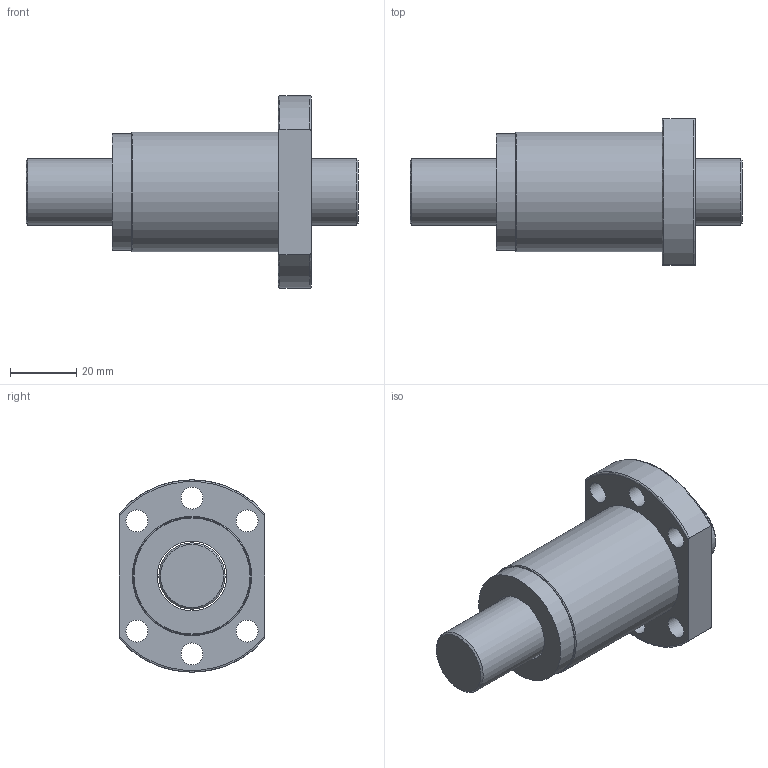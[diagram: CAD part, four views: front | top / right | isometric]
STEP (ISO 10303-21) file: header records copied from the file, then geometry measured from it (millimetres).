
FILE_DESCRIPTION(/* description */ (''),/* implementation_level */ '2;1');
FILE_NAME(/* name */ 'SFS2010',/* time_stamp */ '2007-10-26T10:49:46+08:00',/* author */ (''),/* organization */ (''),/* preprocessor_version */ 'ST-DEVELOPER v9',/* originating_system */ 'UGS - NX 3.0',/* authorisation */ '');
FILE_SCHEMA (('CONFIG_CONTROL_DESIGN'));
Length unit declared in the file: millimetre
Products named in the file (1): jaso37B0hu6s
Bounding box: 100.15 x 44 x 58 mm (x, y, z)
Volume: 81539.9 mm3; surface area: 26650.6 mm2
Topology: 4 solids, 4 shells, 35 faces, 78 edges, 53 vertices
Faces by surface type: cylinder 16, plane 12, torus 5, cone 2
Full cylindrical faces by diameter (mm): 6.6 x6, 20 x1, 21 x3, 35 x2, 36 x2
Entity records: 1100 total; most frequent: CARTESIAN_POINT 282, DIRECTION 158, ORIENTED_EDGE 110, AXIS2_PLACEMENT_3D 75, EDGE_LOOP 72, EDGE_CURVE 55, FACE_BOUND 52, VERTEX_POINT 47
